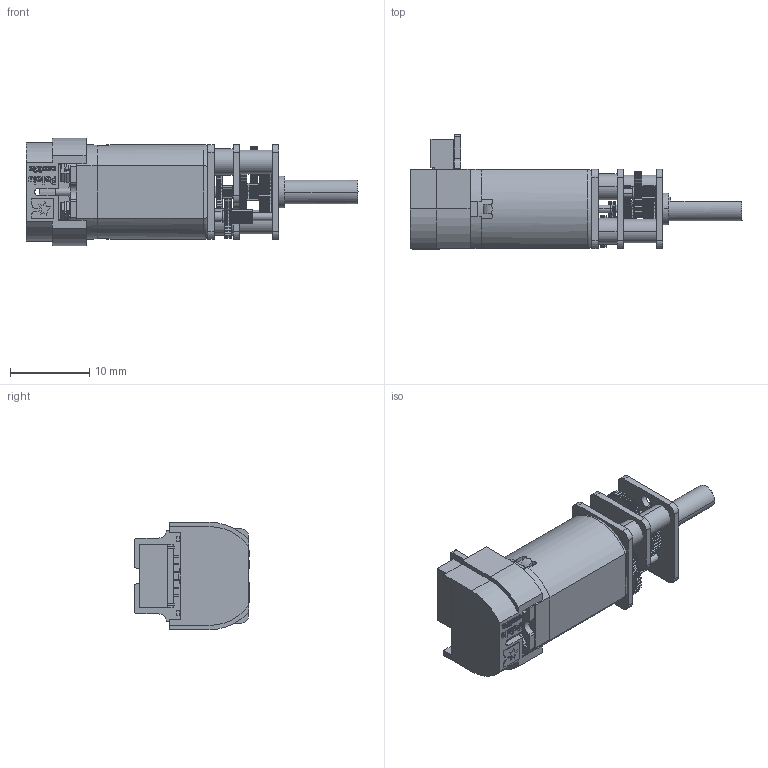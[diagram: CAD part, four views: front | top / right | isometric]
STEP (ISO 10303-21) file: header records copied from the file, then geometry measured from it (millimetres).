
FILE_DESCRIPTION (( 'STEP AP214' ), '1' );
FILE_NAME ('customer_step_mmgm_cb_cas02_enc03d_3.STEP', '2024-04-26T22:50:36', ( '' ), ( '' ), 'SwSTEP 2.0', 'SolidWorks 2023', '' );
FILE_SCHEMA (( 'AUTOMOTIVE_DESIGN' ));
Length unit declared in the file: millimetre
Products named in the file (1): customer_step_mmgm_cb_cas02_enc03d_3
Bounding box: 42 x 14.5 x 13.6 mm (x, y, z)
Volume: 2771.8 mm3; surface area: 3354.3 mm2
Topology: 1 solids, 1 shells, 2804 faces, 8305 edges, 5587 vertices
Faces by surface type: cylinder 1296, plane 1071, bspline 421, torus 10, cone 6
Entity records: 144852 total; most frequent: CARTESIAN_POINT 48282, ORIENTED_EDGE 16610, DIRECTION 9423, EDGE_CURVE 8305, VERTEX_POINT 5587, B_SPLINE_CURVE_WITH_KNOTS 4664, AXIS2_PLACEMENT_3D 3426, EDGE_LOOP 2950
